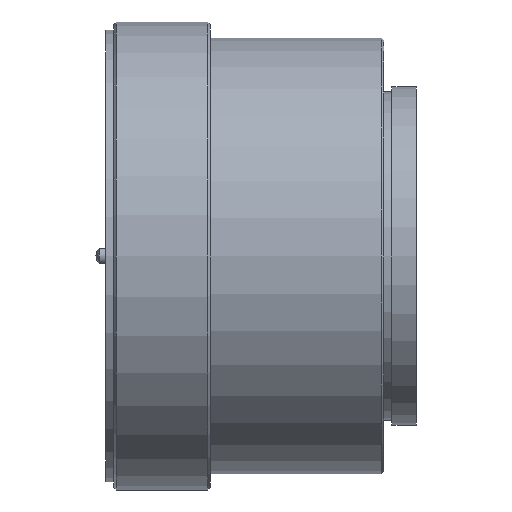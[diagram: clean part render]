
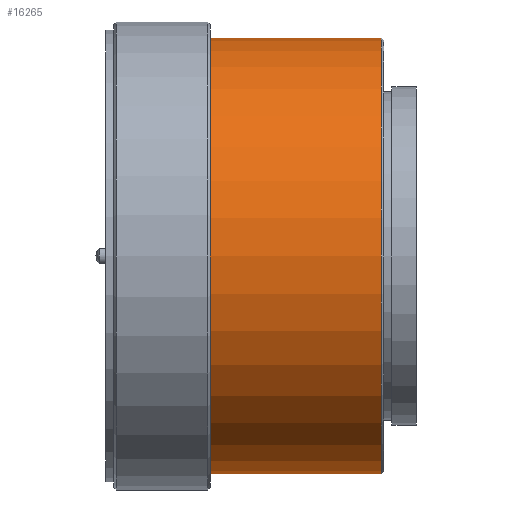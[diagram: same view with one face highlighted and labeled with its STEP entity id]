
A CAD part, front view. The second image highlights one B-rep face of the part: STEP entity #16265.
In plain terms, the highlighted cylindrical face has radius 27 mm (diameter 54 mm), a partial arc.
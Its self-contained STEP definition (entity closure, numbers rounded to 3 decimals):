
#580 = VECTOR ( 'NONE', #1791, 1000. ) ;
#752 = CIRCLE ( 'NONE', #10641, 27. ) ;
#808 = CARTESIAN_POINT ( 'NONE',  ( 0., 0., 27. ) ) ;
#1164 = CIRCLE ( 'NONE', #11732, 27. ) ;
#1791 = DIRECTION ( 'NONE',  ( 1., 0., 0. ) ) ;
#2981 = EDGE_CURVE ( 'NONE', #3128, #6533, #1164, .T. ) ;
#3128 = VERTEX_POINT ( 'NONE', #16520 ) ;
#3265 = EDGE_LOOP ( 'NONE', ( #8465, #14293, #15825, #13668 ) ) ;
#3814 = CARTESIAN_POINT ( 'NONE',  ( 0., 0., -27. ) ) ;
#4927 = DIRECTION ( 'NONE',  ( 1., 0., 0. ) ) ;
#5103 = EDGE_CURVE ( 'NONE', #13264, #11154, #752, .T. ) ;
#6266 = CARTESIAN_POINT ( 'NONE',  ( -4.3, 0., -27. ) ) ;
#6533 = VERTEX_POINT ( 'NONE', #14972 ) ;
#6869 = LINE ( 'NONE', #808, #16373 ) ;
#7301 = CARTESIAN_POINT ( 'NONE',  ( 0., 0., 0. ) ) ;
#8465 = ORIENTED_EDGE ( 'NONE', *, *, #9703, .F. ) ;
#9599 = DIRECTION ( 'NONE',  ( 1., 0., 0. ) ) ;
#9703 = EDGE_CURVE ( 'NONE', #3128, #11154, #6869, .T. ) ;
#10028 = DIRECTION ( 'NONE',  ( 1., 0., 0. ) ) ;
#10559 = CARTESIAN_POINT ( 'NONE',  ( -4.3, 0., 27. ) ) ;
#10641 = AXIS2_PLACEMENT_3D ( 'NONE', #13007, #14731, #12120 ) ;
#10951 = DIRECTION ( 'NONE',  ( 0., 0., -1. ) ) ;
#11154 = VERTEX_POINT ( 'NONE', #10559 ) ;
#11732 = AXIS2_PLACEMENT_3D ( 'NONE', #12677, #4927, #10951 ) ;
#12120 = DIRECTION ( 'NONE',  ( 0., 0., -1. ) ) ;
#12409 = AXIS2_PLACEMENT_3D ( 'NONE', #7301, #9599, #15672 ) ;
#12677 = CARTESIAN_POINT ( 'NONE',  ( -25.5, 0., 0. ) ) ;
#13007 = CARTESIAN_POINT ( 'NONE',  ( -4.3, 0., 0. ) ) ;
#13264 = VERTEX_POINT ( 'NONE', #6266 ) ;
#13668 = ORIENTED_EDGE ( 'NONE', *, *, #5103, .T. ) ;
#13845 = LINE ( 'NONE', #3814, #580 ) ;
#14169 = FACE_OUTER_BOUND ( 'NONE', #3265, .T. ) ;
#14293 = ORIENTED_EDGE ( 'NONE', *, *, #2981, .T. ) ;
#14546 = EDGE_CURVE ( 'NONE', #6533, #13264, #13845, .T. ) ;
#14731 = DIRECTION ( 'NONE',  ( -1., 0., 0. ) ) ;
#14972 = CARTESIAN_POINT ( 'NONE',  ( -25.5, 0., -27. ) ) ;
#15380 = CYLINDRICAL_SURFACE ( 'NONE', #12409, 27. ) ;
#15672 = DIRECTION ( 'NONE',  ( 0., 0., -1. ) ) ;
#15825 = ORIENTED_EDGE ( 'NONE', *, *, #14546, .T. ) ;
#16265 = ADVANCED_FACE ( 'NONE', ( #14169 ), #15380, .T. ) ;
#16373 = VECTOR ( 'NONE', #10028, 1000. ) ;
#16520 = CARTESIAN_POINT ( 'NONE',  ( -25.5, 0., 27. ) ) ;
